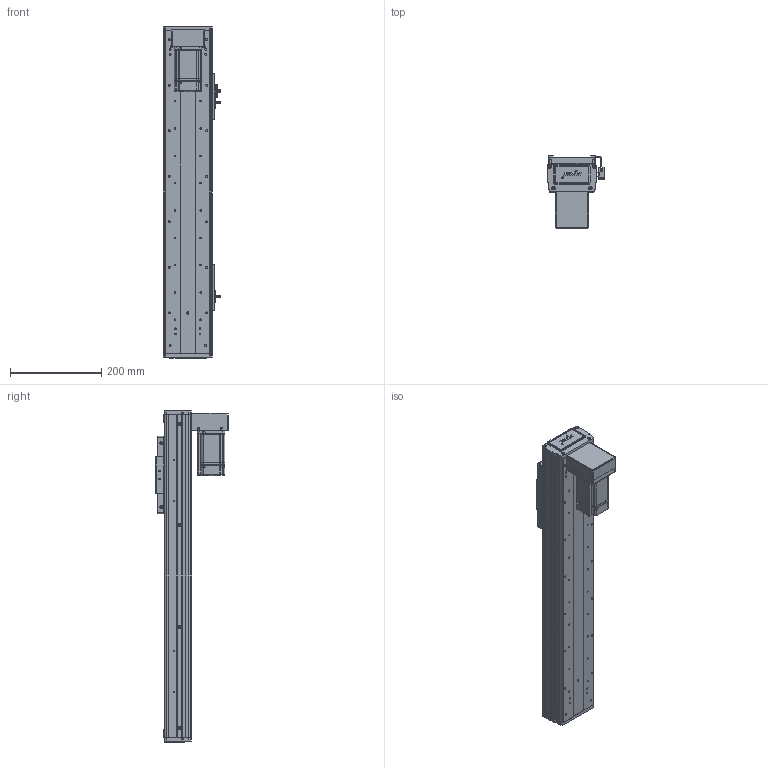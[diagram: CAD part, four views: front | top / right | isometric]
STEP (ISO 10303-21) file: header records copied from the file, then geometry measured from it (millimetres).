
FILE_DESCRIPTION (( 'STEP AP203' ), '1' );
FILE_NAME ('RY100FS-L1620-300-BK(15双轨).SLDASM_450.step', '2021-03-02T07:33:36', ( '盈信电脑' ), ( '东莞市道滘镇水果街19号' ), 'SwSTEP 2.0', 'SolidWorks 2012', '' );
FILE_SCHEMA (( 'CONFIG_CONTROL_DESIGN' ));
Length unit declared in the file: millimetre
Products named in the file (21): RY100FS-L1620-300-BK(15邧寢).SLDASM_450; 滅袉蝶18-15; RY100FS-15双轨下折钢带安装板; 蚥薯蝶紫輸; 1; RY100FS-15邧寢狟殏萇儂欶; RY100F-詩湍揤踡輸; RY100FS-双轨螺母座(16丝杆）; RY100FS-15邧寢狟殏萇儂啣; RY80俋离覜茼え; 672嫖萇羲壽假蚾釱; 覜茼ん672; RY100F-綴裔啣; RY100F-詩湍幗謫粣; RY100F-詩湍揤踡謫; 棠沺沭; RY100FS-300-BK15邧寢祥凄詩湍_450; RY100FS-300-BK15絳寢倰第奻裔啣_450; RY100F-滅鳥裔啣; RY100FS-双轨铝滑块(上板）; RY100FS-300-BK15絳寢倰第菁釱_450
Assembly tree (30 placements, depth 2):
  RY100FS-L1620-300-BK(15邧寢).SLDASM_450
    RY100FS-300-BK15絳寢倰第菁釱_450
    RY100FS-300-BK15絳寢倰第奻裔啣_450  x2
    RY100FS-300-BK15邧寢祥凄詩湍_450
    RY100FS-双轨铝滑块(上板）
    RY100F-滅鳥裔啣
    棠沺沭  x2
    RY100F-詩湍幗謫粣
    RY100F-詩湍揤踡謫  x2
    RY100F-綴裔啣  x2
    672嫖萇羲壽假蚾釱  x2
    RY80俋离覜茼え  x2
    覜茼ん672  x3
    RY100F-詩湍揤踡輸  x2
    RY100FS-双轨螺母座(16丝杆）
    RY100FS-15邧寢狟殏萇儂啣
    RY100FS-15邧寢狟殏萇儂欶
    蚥薯蝶紫輸
    RY100FS-15双轨下折钢带安装板
    滅袉蝶18-15  x2
    1
Bounding box: 126.2 x 158.5 x 729 mm (x, y, z)
Volume: 1991721.3 mm3; surface area: 813427.9 mm2
Topology: 30 solids, 30 shells, 2223 faces, 6042 edges, 3930 vertices
Faces by surface type: plane 1089, cylinder 966, cone 132, bspline 36
Entity records: 59784 total; most frequent: CARTESIAN_POINT 12360, DIRECTION 9405, ORIENTED_EDGE 9324, EDGE_CURVE 4662, AXIS2_PLACEMENT_3D 3295, VERTEX_POINT 3068, LINE 2815, VECTOR 2815
